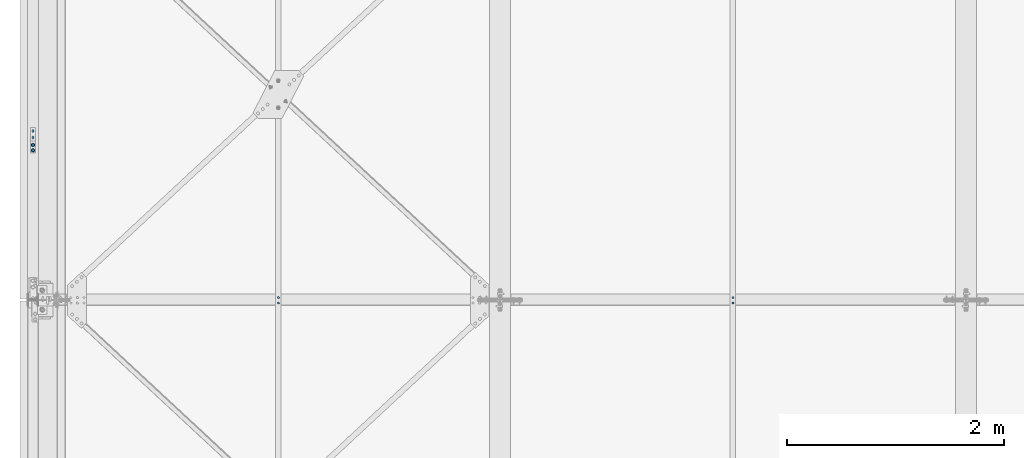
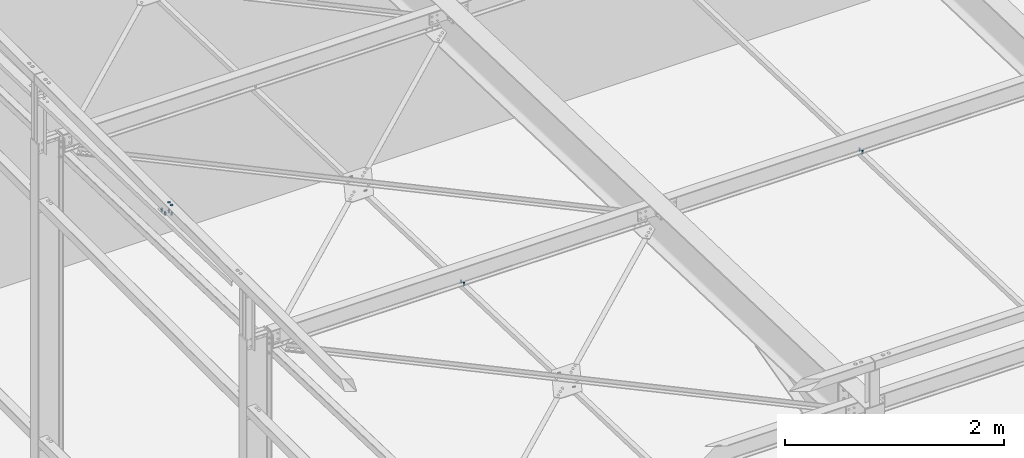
# One storey, part 213 of 362: 5 mechanical fasteners.
"""IFC2X3 building model written with IfcOpenShell, lengths in millimetres."""

from ifc_helpers import new_model, si_unit, frame, frame_2d, origin_with_axes, origin_2d_with_axis, place, context, subcontext, project, spatial, polyline, circle_curve, parameter, trimmed, segment, composite_curve, circle, outline, extrude, source, transform, mapped, material, type_object, element, save


model = new_model("IFC2X3")

# Units and contexts
model_context = context("Model", 3, precision=1e-05, world=origin_with_axes())
body_context = subcontext(model_context, "Body", "Model", "MODEL_VIEW")
ifc_project = project(units=[si_unit("LENGTHUNIT", "METRE", prefix="MILLI"), si_unit("AREAUNIT", "SQUARE_METRE"), si_unit("VOLUMEUNIT", "CUBIC_METRE"), si_unit("MASSUNIT", "GRAM", prefix="KILO"), si_unit("TIMEUNIT", "SECOND"), si_unit("PLANEANGLEUNIT", "RADIAN"), si_unit("SOLIDANGLEUNIT", "STERADIAN"), si_unit("THERMODYNAMICTEMPERATUREUNIT", "DEGREE_CELSIUS"), si_unit("LUMINOUSINTENSITYUNIT", "LUMEN")], contexts=[model_context])

# Site, building, storey
site_placement = place(None, origin_with_axes())
site = spatial("IfcSite", under=ifc_project, at=site_placement, Name="Undefined", CompositionType="ELEMENT")
building_placement = place(site_placement, origin_with_axes())
building = spatial("IfcBuilding", under=site, at=building_placement, Name="Undefined", CompositionType="ELEMENT")
storey_placement = place(building_placement, origin_with_axes())
storey = spatial("IfcBuildingStorey", under=building, at=storey_placement, Name="Undefined", CompositionType="ELEMENT", Elevation=0.0)

# Mechanical fasteners
ifc_material_1 = material(Name="6.8")
mechanical_fastener_type = type_object("IfcMechanicalFastenerType", Name="Bolt assembly")
shared_shape_1 = source(origin_with_axes(), body_context, "Body", "SweptSolid", [
    extrude(circle(Radius=15.0, at=origin_2d_with_axis()), frame((0.0, 0.0, 0.0), z_axis=(0.0, 1.0, 0.0), x_axis=(1.0, 0.0, 0.0)), (0.0, 0.0, 1.0), 4.1),
])
mechanical_fastener_1_placement = place(storey_placement, frame((-129.999999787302, 5230.39, 8550.0), z_axis=(1.0, 0.0, 0.0), x_axis=(0.0, -1.0, 0.0)))
element("IfcMechanicalFastener", 1, at=mechanical_fastener_1_placement, inside=storey, type_object=mechanical_fastener_type, material=ifc_material_1, Name="Bolt assembly", NominalDiameter=30.0, NominalLength=4.0, context=body_context, shape_type="MappedRepresentation", body=[
    mapped(shared_shape_1, transform((0.0, 0.0, 0.0))),
    mapped(shared_shape_1, transform((49.9999999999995, 0.0, -3.63797880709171e-12))),
])
ifc_material_2 = material(Name="8.8-SB-ZINGUE")
shared_shape_2 = source(origin_with_axes(), body_context, "Body", "SweptSolid", [
    extrude(circle(Radius=7.0, at=origin_2d_with_axis()), frame((0.0, -8.39481938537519, 0.0), z_axis=(0.0, 1.0, 0.0), x_axis=(1.0, 0.0, 0.0)), (0.0, 0.0, 1.0), 8.5),
    extrude(circle(Radius=7.0, at=origin_2d_with_axis()), frame((0.0, -0.100011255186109, 0.0), z_axis=(0.0, 1.0, 0.0), x_axis=(1.0, 0.0, 0.0)), (0.0, 0.0, 1.0), 5.1),
    extrude(outline(polyline([(10.39230484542, 0.0), (5.19615242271, 9.00000000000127), (-5.19615242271, 9.00000000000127), (-10.39230484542, 0.0), (-5.19615242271, -9.00000000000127), (5.19615242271, -9.00000000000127), (10.39230484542, 0.0)])), frame((0.0, -16.4148193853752, 0.0), z_axis=(0.0, 1.0, 0.0), x_axis=(1.0, 0.0, 0.0)), (0.0, 0.0, 1.0), 7.92),
    extrude(circle(Radius=6.0, at=origin_2d_with_axis()), frame((0.0, -8.49481938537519, 0.0), z_axis=(0.0, 1.0, 0.0), x_axis=(1.0, 0.0, 0.0)), (0.0, 0.0, 1.0), 30.0),
    extrude(outline(polyline([(11.5008173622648, 0.0), (5.7504086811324, 9.96000000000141), (-5.7504086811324, 9.96000000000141), (-11.5008173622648, 0.0), (-5.7504086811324, -9.96000000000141), (5.7504086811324, -9.96000000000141), (11.5008173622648, 0.0)])), frame((0.0, 5.0, 0.0), z_axis=(0.0, 1.0, 0.0), x_axis=(1.0, 0.0, 0.0)), (0.0, 0.0, 1.0), 7.92),
])
for number, where, z_axis, x_axis, name in (
    (2, (6330.00001266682, 3796.86456272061, 7730.58514469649), (0.0, -0.999506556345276, 0.031410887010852), (-1.0, 0.0, 0.0), "Bolt assembly"),
    (3, (2135.00001266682, 3796.86456273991, 7730.58514469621), (0.0, -0.999506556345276, 0.031410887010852), (-1.0, 0.0, 0.0), "Bolt assembly"),
):
    element("IfcMechanicalFastener", number, at=place(storey_placement, frame(where, z_axis=z_axis, x_axis=x_axis)), inside=storey, type_object=mechanical_fastener_type, material=ifc_material_2, Name=name, NominalDiameter=12.0, NominalLength=30.0, context=body_context, shape_type="MappedRepresentation", body=[
        mapped(shared_shape_2, transform((0.0, 0.0, -25.0))),
        mapped(shared_shape_2, transform((0.0, 0.0, 25.0))),
    ])
shared_shape_3 = source(origin_with_axes(), body_context, "Body", "SweptSolid", [
    extrude(circle(Radius=7.0, at=origin_2d_with_axis()), frame((0.0, -0.100011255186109, 0.0), z_axis=(0.0, 1.0, 0.0), x_axis=(1.0, 0.0, 0.0)), (0.0, 0.0, 1.0), 4.1),
    extrude(outline(composite_curve([segment(polyline([(-7.0, 7.0), (7.0, 7.0)]), True, "CONTINUOUS"), segment(trimmed(circle_curve(frame_2d((7.0, 0.0), x_axis=(0.0, 1.0)), 7.0), [parameter(0.0)], [parameter(3.14159265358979)], False, "PARAMETER"), True, "CONTINUOUS"), segment(polyline([(7.0, -7.0), (-7.0, -7.0)]), True, "CONTINUOUS"), segment(trimmed(circle_curve(frame_2d((-7.0, 0.0), x_axis=(0.0, -1.0)), 7.0), [parameter(0.0)], [parameter(3.14159265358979)], False, "PARAMETER"), True, "DISCONTINUOUS")], self_intersect=False)), frame((0.0, -5.8999542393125, 0.0), z_axis=(0.0, 1.0, 0.0), x_axis=(1.0, 0.0, 0.0)), (0.0, 0.0, 1.0), 6.0),
    extrude(outline(polyline([(10.39230484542, 0.0), (5.19615242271, 9.00000000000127), (-5.19615242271, 9.00000000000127), (-10.39230484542, 0.0), (-5.19615242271, -9.00000000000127), (5.19615242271, -9.00000000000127), (10.39230484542, 0.0)])), frame((0.0, -17.8800021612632, 0.0), z_axis=(0.0, 1.0, 0.0), x_axis=(1.0, 0.0, 0.0)), (0.0, 0.0, 1.0), 7.92),
    extrude(circle(Radius=6.0, at=origin_2d_with_axis()), frame((0.0, -9.96000216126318, 0.0), z_axis=(0.0, 1.0, 0.0), x_axis=(1.0, 0.0, 0.0)), (0.0, 0.0, 1.0), 30.0),
    extrude(circle(Radius=10.8, at=origin_2d_with_axis()), frame((0.0, -9.96000216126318, 0.0), z_axis=(0.0, 1.0, 0.0), x_axis=(1.0, 0.0, 0.0)), (0.0, 0.0, 1.0), 3.96),
    extrude(outline(polyline([(11.5008173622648, 0.0), (5.7504086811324, 9.96000000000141), (-5.7504086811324, 9.96000000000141), (-11.5008173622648, 0.0), (-5.7504086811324, -9.96000000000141), (5.7504086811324, -9.96000000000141), (11.5008173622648, 0.0)])), frame((0.0, 4.00000005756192, 0.0), z_axis=(0.0, 1.0, 0.0), x_axis=(1.0, 0.0, 0.0)), (0.0, 0.0, 1.0), 7.92),
])
mechanical_fastener_2_placement = place(storey_placement, frame((-129.999999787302, 5359.3365202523, 8386.85855943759), z_axis=(1.0, 0.0, 0.0), x_axis=(0.0, -0.999506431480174, 0.0314148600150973)))
element("IfcMechanicalFastener", 4, at=mechanical_fastener_2_placement, inside=storey, type_object=mechanical_fastener_type, material=ifc_material_2, Name="Bolt assembly", NominalDiameter=12.0, NominalLength=30.0, context=body_context, shape_type="MappedRepresentation", body=[
    mapped(shared_shape_3, transform((0.0, 0.0, 0.0))),
    mapped(shared_shape_3, transform((60.0, 0.0, 0.0))),
])
shared_shape_4 = source(origin_with_axes(), body_context, "Body", "SweptSolid", [
    extrude(circle(Radius=7.0, at=origin_2d_with_axis()), frame((0.0, -0.100011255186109, 0.0), z_axis=(0.0, 1.0, 0.0), x_axis=(1.0, 0.0, 0.0)), (0.0, 0.0, 1.0), 4.1),
    extrude(circle(Radius=7.0, at=origin_2d_with_axis()), frame((0.0, -5.8999542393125, 0.0), z_axis=(0.0, 1.0, 0.0), x_axis=(1.0, 0.0, 0.0)), (0.0, 0.0, 1.0), 6.0),
    extrude(outline(polyline([(10.39230484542, 0.0), (5.19615242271, 9.00000000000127), (-5.19615242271, 9.00000000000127), (-10.39230484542, 0.0), (-5.19615242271, -9.00000000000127), (5.19615242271, -9.00000000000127), (10.39230484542, 0.0)])), frame((0.0, -13.9199542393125, 0.0), z_axis=(0.0, 1.0, 0.0), x_axis=(1.0, 0.0, 0.0)), (0.0, 0.0, 1.0), 7.92),
    extrude(circle(Radius=6.0, at=origin_2d_with_axis()), frame((0.0, -5.9999542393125, 0.0), z_axis=(0.0, 1.0, 0.0), x_axis=(1.0, 0.0, 0.0)), (0.0, 0.0, 1.0), 30.0),
    extrude(outline(polyline([(11.5008173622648, 0.0), (5.7504086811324, 9.96000000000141), (-5.7504086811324, 9.96000000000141), (-11.5008173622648, 0.0), (-5.7504086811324, -9.96000000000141), (5.7504086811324, -9.96000000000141), (11.5008173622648, 0.0)])), frame((0.0, 4.00000005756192, 0.0), z_axis=(0.0, 1.0, 0.0), x_axis=(1.0, 0.0, 0.0)), (0.0, 0.0, 1.0), 7.92),
])
mechanical_fastener_3_placement = place(storey_placement, frame((-129.999999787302, 5180.38587692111, 8450.0), z_axis=(1.0, 0.0, 0.0), x_axis=(0.0, 1.0, 0.0)))
element("IfcMechanicalFastener", 5, at=mechanical_fastener_3_placement, inside=storey, type_object=mechanical_fastener_type, material=ifc_material_2, Name="Bolt assembly", NominalDiameter=12.0, NominalLength=30.0, context=body_context, shape_type="MappedRepresentation", body=[
    mapped(shared_shape_4, transform((0.0, 0.0, 0.0))),
    mapped(shared_shape_4, transform((49.9999999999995, 0.0, -3.63797880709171e-12))),
])

save(model, "model.ifc")
